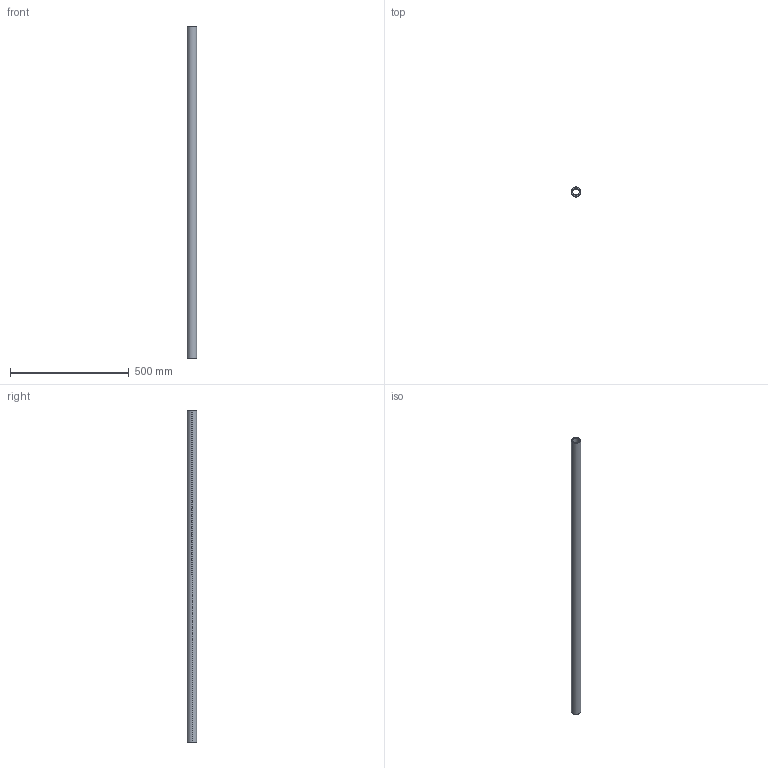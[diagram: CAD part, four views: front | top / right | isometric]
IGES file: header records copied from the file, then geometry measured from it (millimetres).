
Start section: SolidWorks IGES file using analytic representation for surfaces
Global section: file name: C:\Users\IanO\Desktop\L1771_v2\L1771.40_v2\L1771.40_v2_20230705_IGES\L1771.40-1400.igs; native system: SolidWorks 2019; preprocessor: SolidWorks 2019; author: IanO; date: 230705.160559; units: millimetre
Bounding box: 40 x 40 x 1400 mm (x, y, z)
Surface area: 300361.4 mm2 (no closed solid volume)
Topology: 0 solids, 0 shells, 6 faces, 272 edges, 272 vertices
Faces by surface type: revolution 4, bspline 2
